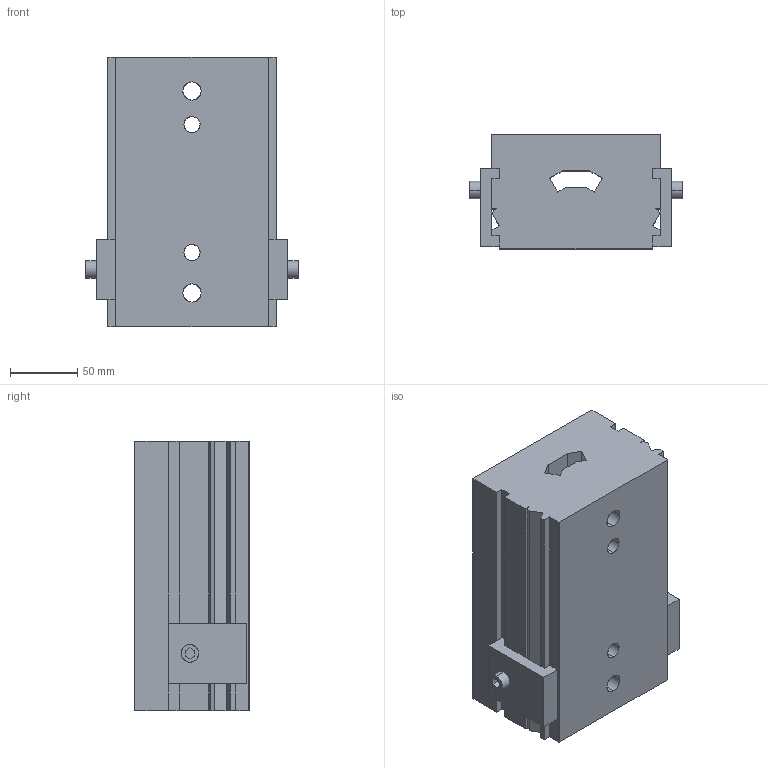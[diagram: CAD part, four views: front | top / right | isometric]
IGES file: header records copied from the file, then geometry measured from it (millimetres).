
Start section: START RECORD GO HERE.
Global section: file name: A945-03-1220-01-S-BC.igs; native system: DASSAULT SYSTEMES CATIA V5 R20 - www.3ds.com; preprocessor: CATIA Version 5 Release 20 ; author: Utente; organization: NB04-ASUS; date: 20200417.120416; units: millimetre
Bounding box: 158 x 85 x 200 mm (x, y, z)
Surface area: 147373.9 mm2 (no closed solid volume)
Topology: 0 solids, 0 shells, 100 faces, 564 edges, 564 vertices
Faces by surface type: extrusion 80, revolution 20
